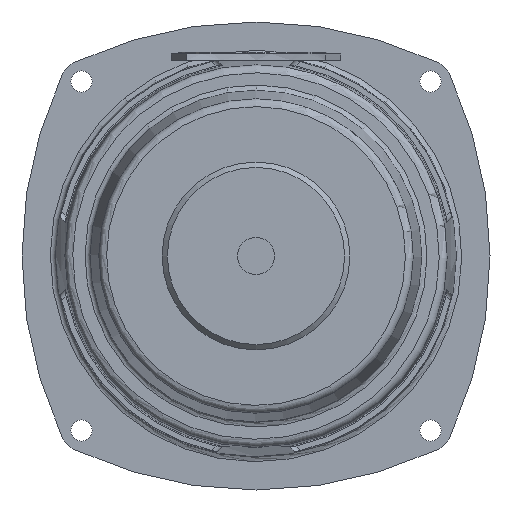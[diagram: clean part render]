
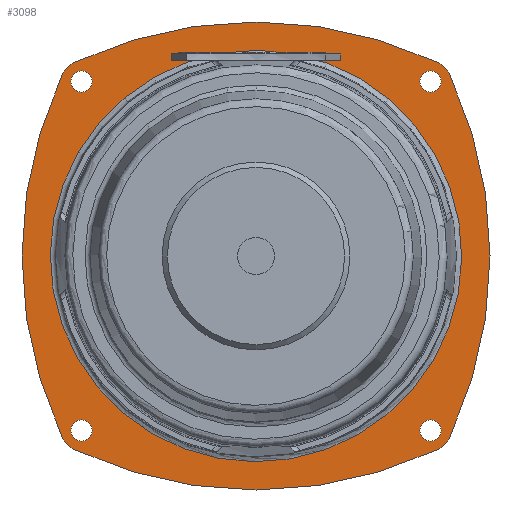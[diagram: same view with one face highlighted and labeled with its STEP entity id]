
A CAD part, front view. The second image highlights one B-rep face of the part: STEP entity #3098.
In plain terms, the highlighted planar face has unit normal (0, -1, 0).
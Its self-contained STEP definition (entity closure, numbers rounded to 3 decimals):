
#74=FACE_BOUND('',#1001,.T.);
#75=FACE_BOUND('',#1002,.T.);
#76=FACE_BOUND('',#1003,.T.);
#77=FACE_BOUND('',#1004,.T.);
#78=FACE_BOUND('',#1005,.T.);
#153=PLANE('',#3363);
#532=CIRCLE('',#3134,5.);
#534=CIRCLE('',#3137,5.);
#536=CIRCLE('',#3140,81.);
#547=CIRCLE('',#3168,2.);
#549=CIRCLE('',#3171,2.);
#582=CIRCLE('',#3249,2.);
#584=CIRCLE('',#3252,2.);
#614=CIRCLE('',#3309,81.);
#616=CIRCLE('',#3312,5.);
#619=CIRCLE('',#3316,81.);
#620=CIRCLE('',#3318,5.);
#646=CIRCLE('',#3364,81.);
#647=CIRCLE('',#3365,38.9);
#805=FACE_OUTER_BOUND('',#1000,.T.);
#1000=EDGE_LOOP('',(#2798,#2799,#2800,#2801,#2802,#2803,#2804,#2805));
#1001=EDGE_LOOP('',(#2806));
#1002=EDGE_LOOP('',(#2807));
#1003=EDGE_LOOP('',(#2808));
#1004=EDGE_LOOP('',(#2809));
#1005=EDGE_LOOP('',(#2810));
#1210=VERTEX_POINT('',#4411);
#1211=VERTEX_POINT('',#4412);
#1214=VERTEX_POINT('',#4420);
#1215=VERTEX_POINT('',#4421);
#1254=VERTEX_POINT('',#4884);
#1256=VERTEX_POINT('',#4890);
#1404=VERTEX_POINT('',#6959);
#1406=VERTEX_POINT('',#6965);
#1455=VERTEX_POINT('',#7519);
#1457=VERTEX_POINT('',#7525);
#1460=VERTEX_POINT('',#7532);
#1461=VERTEX_POINT('',#7537);
#1503=VERTEX_POINT('',#8759);
#1533=EDGE_CURVE('',#1210,#1211,#532,.T.);
#1537=EDGE_CURVE('',#1214,#1215,#534,.T.);
#1541=EDGE_CURVE('',#1210,#1215,#536,.T.);
#1595=EDGE_CURVE('',#1254,#1254,#547,.T.);
#1598=EDGE_CURVE('',#1256,#1256,#549,.T.);
#1797=EDGE_CURVE('',#1404,#1404,#582,.T.);
#1800=EDGE_CURVE('',#1406,#1406,#584,.T.);
#1875=EDGE_CURVE('',#1214,#1455,#614,.T.);
#1878=EDGE_CURVE('',#1457,#1455,#616,.T.);
#1883=EDGE_CURVE('',#1457,#1460,#619,.T.);
#1884=EDGE_CURVE('',#1461,#1460,#620,.T.);
#1960=EDGE_CURVE('',#1461,#1211,#646,.T.);
#1961=EDGE_CURVE('',#1503,#1503,#647,.T.);
#2798=ORIENTED_EDGE('',*,*,#1875,.F.);
#2799=ORIENTED_EDGE('',*,*,#1537,.T.);
#2800=ORIENTED_EDGE('',*,*,#1541,.F.);
#2801=ORIENTED_EDGE('',*,*,#1533,.T.);
#2802=ORIENTED_EDGE('',*,*,#1960,.F.);
#2803=ORIENTED_EDGE('',*,*,#1884,.T.);
#2804=ORIENTED_EDGE('',*,*,#1883,.F.);
#2805=ORIENTED_EDGE('',*,*,#1878,.T.);
#2806=ORIENTED_EDGE('',*,*,#1961,.F.);
#2807=ORIENTED_EDGE('',*,*,#1598,.T.);
#2808=ORIENTED_EDGE('',*,*,#1595,.T.);
#2809=ORIENTED_EDGE('',*,*,#1797,.T.);
#2810=ORIENTED_EDGE('',*,*,#1800,.T.);
#3098=ADVANCED_FACE('',(#805,#74,#75,#76,#77,#78),#153,.F.);
#3134=AXIS2_PLACEMENT_3D('',#4413,#3405,#3406);
#3137=AXIS2_PLACEMENT_3D('',#4422,#3413,#3414);
#3140=AXIS2_PLACEMENT_3D('',#4429,#3421,#3422);
#3168=AXIS2_PLACEMENT_3D('',#4885,#3493,#3494);
#3171=AXIS2_PLACEMENT_3D('',#4891,#3500,#3501);
#3249=AXIS2_PLACEMENT_3D('',#6960,#3762,#3763);
#3252=AXIS2_PLACEMENT_3D('',#6966,#3769,#3770);
#3309=AXIS2_PLACEMENT_3D('',#7520,#3903,#3904);
#3312=AXIS2_PLACEMENT_3D('',#7526,#3910,#3911);
#3316=AXIS2_PLACEMENT_3D('',#7535,#3920,#3921);
#3318=AXIS2_PLACEMENT_3D('',#7538,#3924,#3925);
#3363=AXIS2_PLACEMENT_3D('',#8757,#4022,#4023);
#3364=AXIS2_PLACEMENT_3D('',#8758,#4024,#4025);
#3365=AXIS2_PLACEMENT_3D('',#8760,#4026,#4027);
#3405=DIRECTION('center_axis',(0.,-1.,0.));
#3406=DIRECTION('ref_axis',(0.906,0.,0.423));
#3413=DIRECTION('center_axis',(0.,-1.,0.));
#3414=DIRECTION('ref_axis',(0.423,0.,-0.906));
#3421=DIRECTION('center_axis',(0.,1.,0.));
#3422=DIRECTION('ref_axis',(0.906,0.,0.423));
#3493=DIRECTION('center_axis',(0.,1.,0.));
#3494=DIRECTION('ref_axis',(0.,0.,-1.));
#3500=DIRECTION('center_axis',(0.,1.,0.));
#3501=DIRECTION('ref_axis',(0.,0.,-1.));
#3762=DIRECTION('center_axis',(0.,1.,0.));
#3763=DIRECTION('ref_axis',(0.,0.,-1.));
#3769=DIRECTION('center_axis',(0.,1.,0.));
#3770=DIRECTION('ref_axis',(0.,0.,-1.));
#3903=DIRECTION('center_axis',(0.,1.,0.));
#3904=DIRECTION('ref_axis',(0.423,0.,-0.906));
#3910=DIRECTION('center_axis',(0.,-1.,0.));
#3911=DIRECTION('ref_axis',(-0.906,0.,-0.423));
#3920=DIRECTION('center_axis',(0.,1.,0.));
#3921=DIRECTION('ref_axis',(-0.906,0.,-0.423));
#3924=DIRECTION('center_axis',(0.,-1.,0.));
#3925=DIRECTION('ref_axis',(-0.423,0.,0.906));
#4022=DIRECTION('center_axis',(0.,1.,0.));
#4023=DIRECTION('ref_axis',(1.,0.,0.));
#4024=DIRECTION('center_axis',(0.,1.,0.));
#4025=DIRECTION('ref_axis',(-0.423,0.,0.906));
#4026=DIRECTION('center_axis',(0.,-1.,0.));
#4027=DIRECTION('ref_axis',(1.,0.,0.));
#4411=CARTESIAN_POINT('',(36.657,0.,34.24));
#4412=CARTESIAN_POINT('',(34.24,0.,36.657));
#4413=CARTESIAN_POINT('Origin',(32.126,0.,32.126));
#4420=CARTESIAN_POINT('',(34.24,0.,-36.657));
#4421=CARTESIAN_POINT('',(36.657,0.,-34.24));
#4422=CARTESIAN_POINT('Origin',(32.126,0.,-32.126));
#4429=CARTESIAN_POINT('Origin',(-36.75,0.,0.));
#4884=CARTESIAN_POINT('',(33.,0.,35.));
#4885=CARTESIAN_POINT('Origin',(33.,0.,33.));
#4890=CARTESIAN_POINT('',(33.,0.,-31.));
#4891=CARTESIAN_POINT('Origin',(33.,0.,-33.));
#6959=CARTESIAN_POINT('',(-33.,0.,35.));
#6960=CARTESIAN_POINT('Origin',(-33.,0.,33.));
#6965=CARTESIAN_POINT('',(-33.,0.,-31.));
#6966=CARTESIAN_POINT('Origin',(-33.,0.,-33.));
#7519=CARTESIAN_POINT('',(-34.24,0.,-36.657));
#7520=CARTESIAN_POINT('Origin',(0.,0.,36.75));
#7525=CARTESIAN_POINT('',(-36.657,0.,-34.24));
#7526=CARTESIAN_POINT('Origin',(-32.126,0.,-32.126));
#7532=CARTESIAN_POINT('',(-36.657,0.,34.24));
#7535=CARTESIAN_POINT('Origin',(36.75,0.,0.));
#7537=CARTESIAN_POINT('',(-34.24,0.,36.657));
#7538=CARTESIAN_POINT('Origin',(-32.126,0.,32.126));
#8757=CARTESIAN_POINT('Origin',(0.,0.,0.));
#8758=CARTESIAN_POINT('Origin',(0.,0.,-36.75));
#8759=CARTESIAN_POINT('',(-38.899,0.,0.316));
#8760=CARTESIAN_POINT('Origin',(0.,0.,0.));
